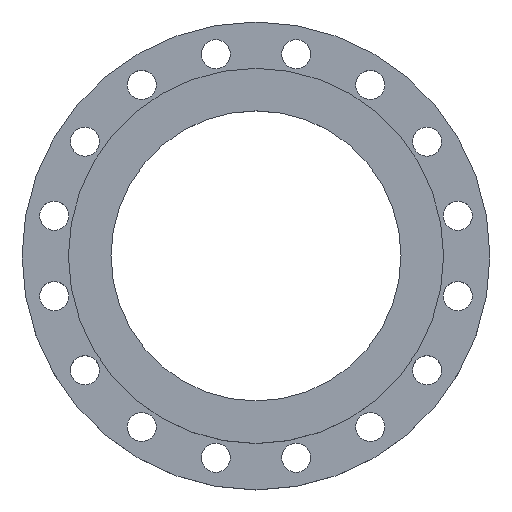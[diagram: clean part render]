
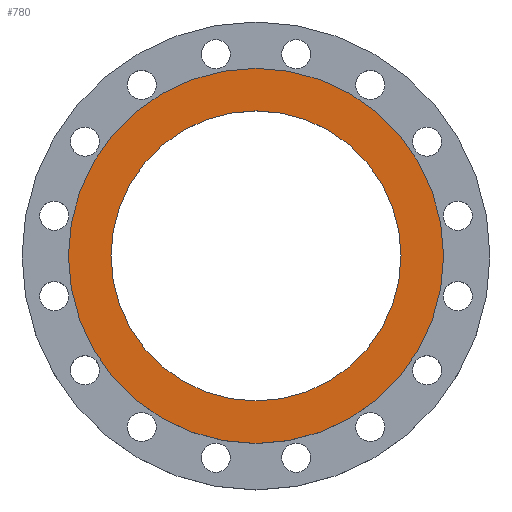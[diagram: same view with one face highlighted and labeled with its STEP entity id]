
A CAD part, top view. The second image highlights one B-rep face of the part: STEP entity #780.
In plain terms, the highlighted planar face has unit normal (0, 0, 1).
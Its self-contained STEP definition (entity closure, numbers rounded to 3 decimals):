
#36 = CARTESIAN_POINT ( 'NONE',  ( -232.5, 0., 36. ) ) ;
#91 = VERTEX_POINT ( 'NONE', #955 ) ;
#126 = CARTESIAN_POINT ( 'NONE',  ( 232.5, 0., 36. ) ) ;
#132 = CARTESIAN_POINT ( 'NONE',  ( -179.75, 0., 36. ) ) ;
#256 = AXIS2_PLACEMENT_3D ( 'NONE', #676, #675, #674 ) ;
#361 = DIRECTION ( 'NONE',  ( -1., 0., 0. ) ) ;
#362 = DIRECTION ( 'NONE',  ( 0., 0., -1. ) ) ;
#363 = CARTESIAN_POINT ( 'NONE',  ( 0., 0., 36. ) ) ;
#364 = DIRECTION ( 'NONE',  ( -1., 0., 0. ) ) ;
#365 = DIRECTION ( 'NONE',  ( 0., 0., -1. ) ) ;
#367 = CARTESIAN_POINT ( 'NONE',  ( 0., 0., 36. ) ) ;
#497 = CIRCLE ( 'NONE', #1342, 179.75 ) ;
#524 = DIRECTION ( 'NONE',  ( -1., 0., 0. ) ) ;
#526 = DIRECTION ( 'NONE',  ( 0., 0., -1. ) ) ;
#527 = CARTESIAN_POINT ( 'NONE',  ( 0., 0., 36. ) ) ;
#606 = AXIS2_PLACEMENT_3D ( 'NONE', #527, #526, #524 ) ;
#625 = DIRECTION ( 'NONE',  ( -1., 0., 0. ) ) ;
#627 = DIRECTION ( 'NONE',  ( 0., 0., -1. ) ) ;
#628 = CARTESIAN_POINT ( 'NONE',  ( 0., 0., 36. ) ) ;
#674 = DIRECTION ( 'NONE',  ( -1., 0., 0. ) ) ;
#675 = DIRECTION ( 'NONE',  ( 0., 0., -1. ) ) ;
#676 = CARTESIAN_POINT ( 'NONE',  ( 179.75, 0., 36. ) ) ;
#677 = PLANE ( 'NONE',  #256 ) ;
#678 = FACE_BOUND ( 'NONE', #1379, .T. ) ;
#679 = FACE_OUTER_BOUND ( 'NONE', #1430, .T. ) ;
#722 = CIRCLE ( 'NONE', #606, 232.5 ) ;
#732 = CIRCLE ( 'NONE', #737, 232.5 ) ;
#737 = AXIS2_PLACEMENT_3D ( 'NONE', #363, #362, #361 ) ;
#780 = ADVANCED_FACE ( 'NONE', ( #679, #678 ), #677, .F. ) ;
#878 = EDGE_CURVE ( 'NONE', #91, #1611, #497, .T. ) ;
#955 = CARTESIAN_POINT ( 'NONE',  ( 179.75, 0., 36. ) ) ;
#1068 = EDGE_CURVE ( 'NONE', #1619, #1361, #722, .T. ) ;
#1121 = ORIENTED_EDGE ( 'NONE', *, *, #878, .T. ) ;
#1122 = ORIENTED_EDGE ( 'NONE', *, *, #1353, .T. ) ;
#1123 = ORIENTED_EDGE ( 'NONE', *, *, #1068, .F. ) ;
#1124 = ORIENTED_EDGE ( 'NONE', *, *, #1354, .F. ) ;
#1272 = CIRCLE ( 'NONE', #1274, 179.75 ) ;
#1274 = AXIS2_PLACEMENT_3D ( 'NONE', #367, #365, #364 ) ;
#1342 = AXIS2_PLACEMENT_3D ( 'NONE', #628, #627, #625 ) ;
#1353 = EDGE_CURVE ( 'NONE', #1611, #91, #1272, .T. ) ;
#1354 = EDGE_CURVE ( 'NONE', #1361, #1619, #732, .T. ) ;
#1361 = VERTEX_POINT ( 'NONE', #36 ) ;
#1379 = EDGE_LOOP ( 'NONE', ( #1122, #1121 ) ) ;
#1430 = EDGE_LOOP ( 'NONE', ( #1124, #1123 ) ) ;
#1611 = VERTEX_POINT ( 'NONE', #132 ) ;
#1619 = VERTEX_POINT ( 'NONE', #126 ) ;
